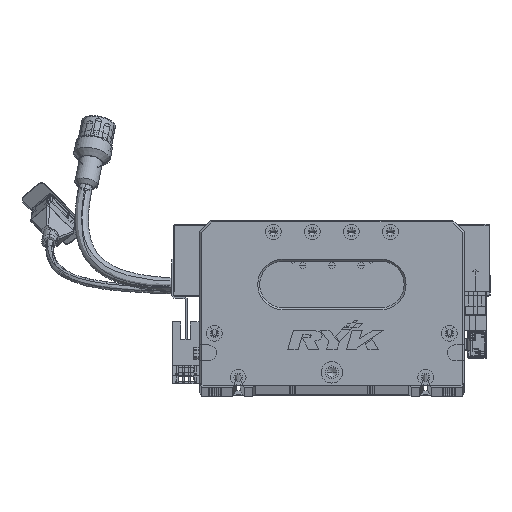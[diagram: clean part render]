
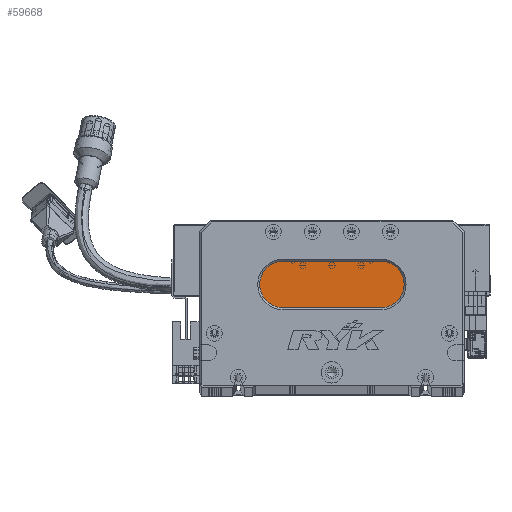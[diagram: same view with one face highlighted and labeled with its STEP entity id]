
A CAD part, top view. The second image highlights one B-rep face of the part: STEP entity #59668.
In plain terms, the highlighted planar face has unit normal (0, 0, 1) as drawn and (0, 0, -1) by its records, which use the part's own axes.
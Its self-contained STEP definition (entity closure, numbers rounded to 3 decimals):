
#552 = VECTOR ( 'NONE', #10950, 1000. ) ;
#4528 = EDGE_CURVE ( 'NONE', #77370, #86291, #52009, .T. ) ;
#7907 = CARTESIAN_POINT ( 'NONE',  ( 93., 64., 13. ) ) ;
#10950 = DIRECTION ( 'NONE',  ( -1., 0., 0. ) ) ;
#12325 = VERTEX_POINT ( 'NONE', #63781 ) ;
#12461 = AXIS2_PLACEMENT_3D ( 'NONE', #118570, #77839, #98694 ) ;
#24010 = AXIS2_PLACEMENT_3D ( 'NONE', #125053, #64482, #24998 ) ;
#24701 = AXIS2_PLACEMENT_3D ( 'NONE', #27973, #68294, #109505 ) ;
#24998 = DIRECTION ( 'NONE',  ( -1., 0., 0. ) ) ;
#27677 = ORIENTED_EDGE ( 'NONE', *, *, #130497, .T. ) ;
#27973 = CARTESIAN_POINT ( 'NONE',  ( 43., 52., 13. ) ) ;
#31950 = CIRCLE ( 'NONE', #128622, 12. ) ;
#32808 = CARTESIAN_POINT ( 'NONE',  ( 93., 64., 13. ) ) ;
#33882 = PLANE ( 'NONE',  #24010 ) ;
#35951 = CARTESIAN_POINT ( 'NONE',  ( 93., 40., 13. ) ) ;
#42091 = VERTEX_POINT ( 'NONE', #35951 ) ;
#42821 = EDGE_CURVE ( 'NONE', #12325, #77370, #97485, .T. ) ;
#49371 = DIRECTION ( 'NONE',  ( 0., 0., -1. ) ) ;
#50416 = FACE_OUTER_BOUND ( 'NONE', #88161, .T. ) ;
#52009 = CIRCLE ( 'NONE', #24701, 12. ) ;
#53374 = VECTOR ( 'NONE', #109820, 1000. ) ;
#59668 = ADVANCED_FACE ( 'NONE', ( #50416 ), #33882, .T. ) ;
#63781 = CARTESIAN_POINT ( 'NONE',  ( 43., 40., 13. ) ) ;
#64482 = DIRECTION ( 'NONE',  ( 0., 0., -1. ) ) ;
#68294 = DIRECTION ( 'NONE',  ( 0., 0., -1. ) ) ;
#72081 = CARTESIAN_POINT ( 'NONE',  ( 93., 40., 13. ) ) ;
#74332 = EDGE_CURVE ( 'NONE', #115423, #42091, #31950, .T. ) ;
#75550 = LINE ( 'NONE', #7907, #53374 ) ;
#75875 = ORIENTED_EDGE ( 'NONE', *, *, #74332, .T. ) ;
#77076 = ORIENTED_EDGE ( 'NONE', *, *, #122474, .T. ) ;
#77370 = VERTEX_POINT ( 'NONE', #131251 ) ;
#77839 = DIRECTION ( 'NONE',  ( 0., 0., -1. ) ) ;
#82416 = ORIENTED_EDGE ( 'NONE', *, *, #42821, .T. ) ;
#86291 = VERTEX_POINT ( 'NONE', #102223 ) ;
#88161 = EDGE_LOOP ( 'NONE', ( #75875, #27677, #82416, #94822, #77076 ) ) ;
#94822 = ORIENTED_EDGE ( 'NONE', *, *, #4528, .T. ) ;
#97485 = CIRCLE ( 'NONE', #12461, 12. ) ;
#98694 = DIRECTION ( 'NONE',  ( -1., 0., 0. ) ) ;
#100492 = LINE ( 'NONE', #72081, #552 ) ;
#102223 = CARTESIAN_POINT ( 'NONE',  ( 43., 64., 13. ) ) ;
#109505 = DIRECTION ( 'NONE',  ( -1., 0., 0. ) ) ;
#109820 = DIRECTION ( 'NONE',  ( 1., 0., 0. ) ) ;
#111812 = DIRECTION ( 'NONE',  ( -1., 0., 0. ) ) ;
#115423 = VERTEX_POINT ( 'NONE', #32808 ) ;
#118570 = CARTESIAN_POINT ( 'NONE',  ( 43., 52., 13. ) ) ;
#120171 = CARTESIAN_POINT ( 'NONE',  ( 93., 52., 13. ) ) ;
#122474 = EDGE_CURVE ( 'NONE', #86291, #115423, #75550, .T. ) ;
#125053 = CARTESIAN_POINT ( 'NONE',  ( 93., 52., 13. ) ) ;
#128622 = AXIS2_PLACEMENT_3D ( 'NONE', #120171, #49371, #111812 ) ;
#130497 = EDGE_CURVE ( 'NONE', #42091, #12325, #100492, .T. ) ;
#131251 = CARTESIAN_POINT ( 'NONE',  ( 31., 52., 13. ) ) ;
